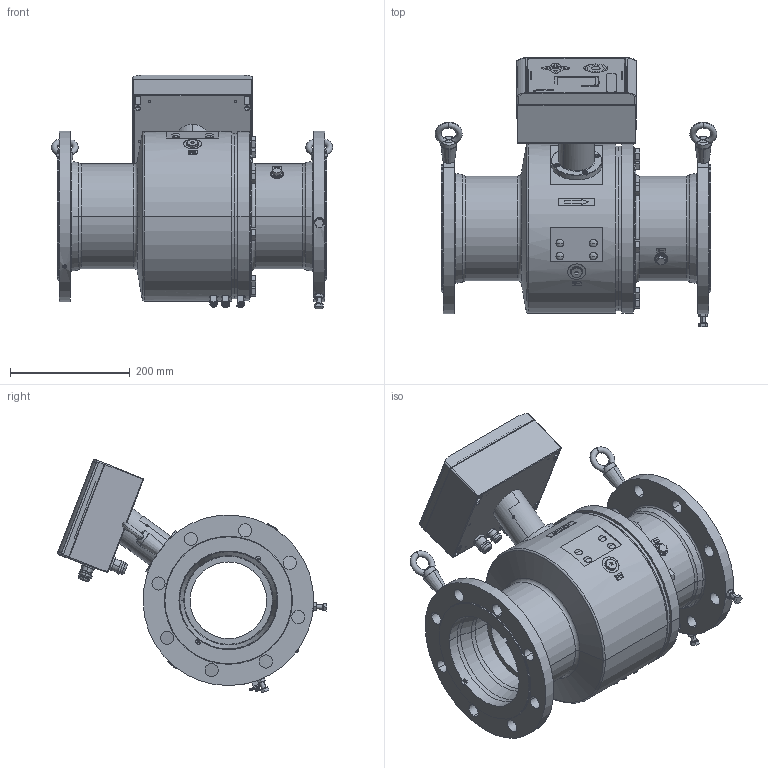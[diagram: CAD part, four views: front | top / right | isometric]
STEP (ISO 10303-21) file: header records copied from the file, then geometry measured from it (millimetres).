
FILE_DESCRIPTION((''),'2;1');
FILE_NAME('STANDARD_SW0001_10_RE','2023-09-11T08:08:45',('R85801'),(''),'CREO PARAMETRIC BY PTC INC, 2022281','CREO PARAMETRIC BY PTC INC, 2022281','');
FILE_SCHEMA(('AP242_MANAGED_MODEL_BASED_3D_ENGINEERING_MIM_LF { 1 0 10303 442 1 1 4 }'));
Products named in the file (2): STANDARD_SW0001_10_RE; 10038_S235JRG2
Bounding box: 469.97 x 450.19 x 390.64 mm (x, y, z)
Volume: 10794863.6 mm3; surface area: 1297102 mm2
Topology: 12 solids, 22 shells, 4021 faces, 10117 edges, 6424 vertices
Faces by surface type: plane 1923, cylinder 730, extrusion 632, cone 376, torus 284, sphere 40, bspline 36
Entity records: 191726 total; most frequent: CARTESIAN_POINT 31086, ORIENTED_EDGE 20106, DIRECTION 18378, PRESENTATION_STYLE_ASSIGNMENT 14687, STYLED_ITEM 10702, CURVE_STYLE 10689, EDGE_CURVE 10053, VECTOR 6618
